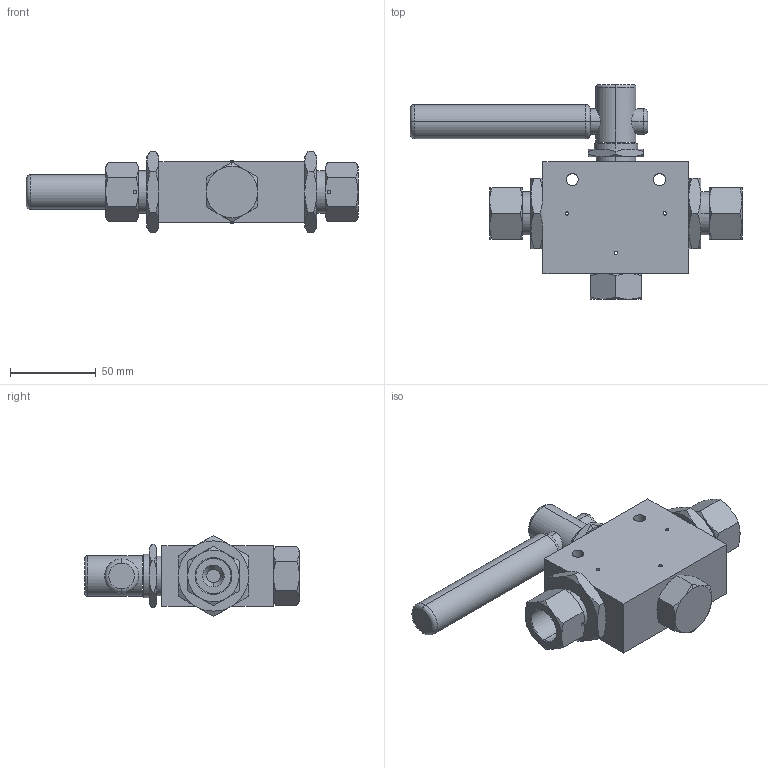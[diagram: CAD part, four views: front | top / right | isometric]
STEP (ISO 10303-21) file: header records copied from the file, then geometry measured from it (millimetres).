
FILE_DESCRIPTION (( 'STEP AP203' ), '1' );
FILE_NAME ('BV2005S09-2-90.STEP', '2022-03-31T10:19:11', ( '' ), ( '' ), 'SwSTEP 2.0', 'SolidWorks 2020', '' );
FILE_SCHEMA (( 'CONFIG_CONTROL_DESIGN' ));
Length unit declared in the file: millimetre
Products named in the file (1): BV2005S09-2-90
Bounding box: 193.5 x 125 x 47.34 mm (x, y, z)
Volume: 297966.8 mm3; surface area: 48979.1 mm2
Topology: 1 solids, 1 shells, 208 faces, 462 edges, 270 vertices
Faces by surface type: cone 90, plane 66, cylinder 44, torus 8
Entity records: 6543 total; most frequent: CARTESIAN_POINT 2037, ORIENTED_EDGE 916, DIRECTION 912, EDGE_CURVE 458, AXIS2_PLACEMENT_3D 397, VERTEX_POINT 270, EDGE_LOOP 240, ADVANCED_FACE 208
